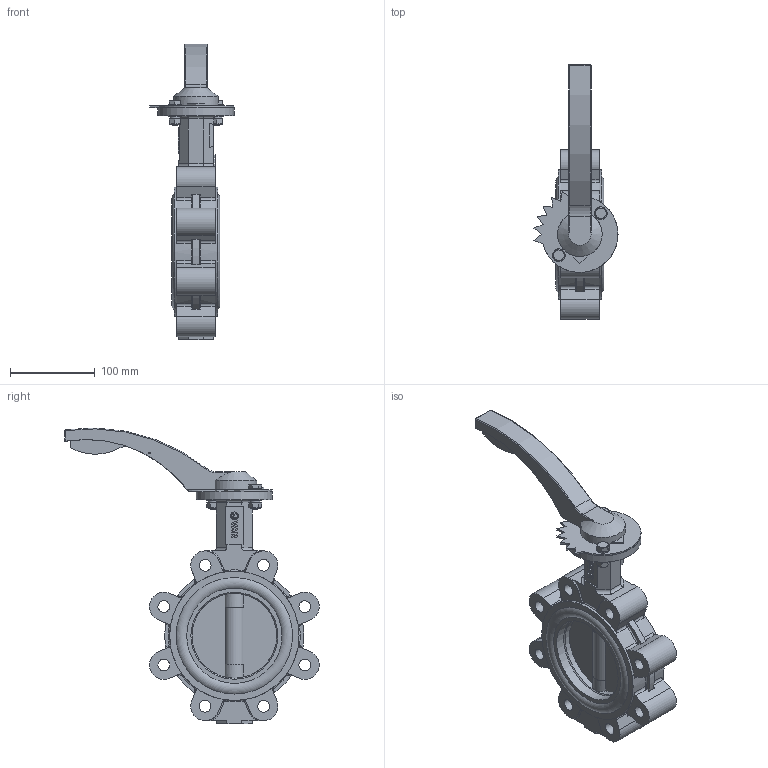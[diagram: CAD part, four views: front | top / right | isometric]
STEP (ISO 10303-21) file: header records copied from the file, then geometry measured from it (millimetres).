
FILE_DESCRIPTION(('STEP AP242'), '1');
FILE_NAME('Ïîâîðîòíûé çàòâîð ïîä ýëåêòðîïðèâîä', '', ('UNSPECIFIED'), ('UNSPECIFIED'), 'C3D Converter', 'C3D Toolkit', '');
FILE_SCHEMA(('AP242_MANAGED_MODEL_BASED_3D_ENGINEERING_MIM_LF { 1 0 10303 442 1 1 4 }'));
Length unit declared in the file: millimetre
Products named in the file (14): П
Assembly tree (20 placements, depth 3):
  (unnamed)
    (unnamed)
    П  x2
    (unnamed)
    (unnamed)
    (unnamed)
    (unnamed)
      (unnamed)
      (unnamed)
      (unnamed)
    (unnamed)  x2
    (unnamed)  x4
    (unnamed)  x2
    (unnamed)  x2
Bounding box: 99.15 x 300.13 x 349.05 mm (x, y, z)
Volume: 1285575.8 mm3; surface area: 311088.9 mm2
Topology: 19 solids, 19 shells, 739 faces, 1857 edges, 1191 vertices
Faces by surface type: plane 331, cylinder 183, extrusion 139, torus 64, cone 18, bspline 2, sphere 2
Full cylindrical faces by diameter (mm): 2 x2, 3 x2, 6 x2, 6.647 x2, 8 x2, 9 x4, 9.137 x1, 10 x6, 13.835 x8, 14 x5, 15 x4, 15.4 x1, 19.799 x5, 22.627 x1, 24.51 x4, 90 x1, 100 x1, 102.5 x2, 112.5 x2, 124.917 x4, 137.333 x4, 152.533 x2
Entity records: 27459 total; most frequent: CARTESIAN_POINT 8467, ORIENTED_EDGE 3378, DIRECTION 3032, EDGE_CURVE 1689, VERTEX_POINT 1131, AXIS2_PLACEMENT_3D 1011, VECTOR 1010, LINE 871
